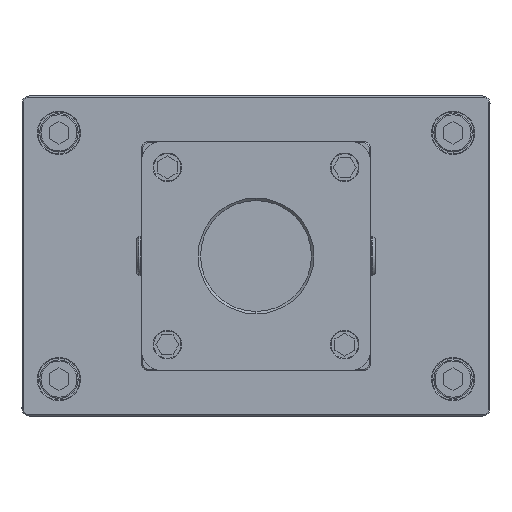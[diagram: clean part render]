
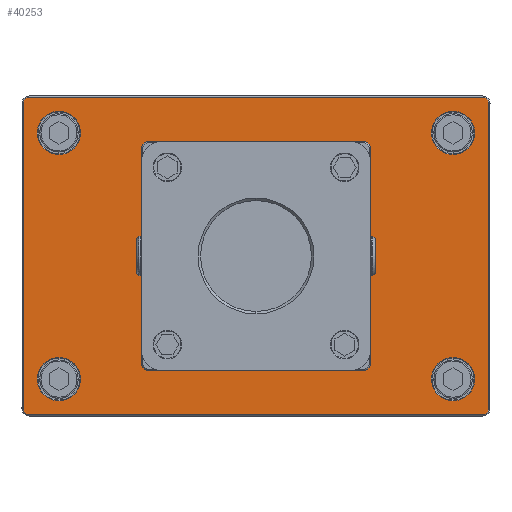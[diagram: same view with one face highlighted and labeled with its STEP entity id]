
A CAD part, front view. The second image highlights one B-rep face of the part: STEP entity #40253.
In plain terms, the highlighted planar face has unit normal (0, -1, 0) as drawn and (0, 1, 0) by its records, which use the part's own axes.
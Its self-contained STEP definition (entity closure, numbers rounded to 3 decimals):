
#38705=CARTESIAN_POINT('',(0.,9.,0.));
#38706=DIRECTION('',(0.,-1.,0.));
#38707=DIRECTION('',(1.,0.,0.));
#38708=AXIS2_PLACEMENT_3D('',#38705,#38706,#38707);
#38710=CARTESIAN_POINT('',(0.,9.,0.));
#38711=DIRECTION('',(0.,-1.,0.));
#38712=DIRECTION('',(-1.,0.,0.));
#38713=AXIS2_PLACEMENT_3D('',#38710,#38711,#38712);
#38715=CARTESIAN_POINT('',(-92.,9.,-62.));
#38716=DIRECTION('',(0.,1.,0.));
#38717=DIRECTION('',(0.,0.,-1.));
#38718=AXIS2_PLACEMENT_3D('',#38715,#38716,#38717);
#38720=DIRECTION('',(-1.,0.,0.));
#38721=VECTOR('',#38720,184.);
#38722=CARTESIAN_POINT('',(92.,9.,
-64.5));
#38723=LINE('',#38722,#38721);
#38724=CARTESIAN_POINT('',(92.,9.,-62.));
#38725=DIRECTION('',(0.,1.,0.));
#38726=DIRECTION('',(1.,0.,0.));
#38727=AXIS2_PLACEMENT_3D('',#38724,#38725,#38726);
#38729=DIRECTION('',(0.,0.,-1.));
#38730=VECTOR('',#38729,124.);
#38731=CARTESIAN_POINT('',(94.5,9.,62.));
#38732=LINE('',#38731,#38730);
#38733=CARTESIAN_POINT('',(92.,9.,62.));
#38734=DIRECTION('',(0.,1.,0.));
#38735=DIRECTION('',(0.,0.,1.));
#38736=AXIS2_PLACEMENT_3D('',#38733,#38734,#38735);
#38738=DIRECTION('',(1.,0.,0.));
#38739=VECTOR('',#38738,184.);
#38740=CARTESIAN_POINT('',(-92.,9.,
64.5));
#38741=LINE('',#38740,#38739);
#38742=CARTESIAN_POINT('',(-92.,9.,62.));
#38743=DIRECTION('',(0.,1.,0.));
#38744=DIRECTION('',(-1.,0.,0.));
#38745=AXIS2_PLACEMENT_3D('',#38742,#38743,#38744);
#38747=DIRECTION('',(0.,0.,1.));
#38748=VECTOR('',#38747,124.);
#38749=CARTESIAN_POINT('',(-94.5,9.,
-62.));
#38750=LINE('',#38749,#38748);
#38751=CARTESIAN_POINT('',(80.,9.,50.));
#38752=DIRECTION('',(0.,-1.,0.));
#38753=DIRECTION('',(1.,0.,0.));
#38754=AXIS2_PLACEMENT_3D('',#38751,#38752,#38753);
#38756=CARTESIAN_POINT('',(80.,9.,50.));
#38757=DIRECTION('',(0.,-1.,0.));
#38758=DIRECTION('',(-1.,0.,0.));
#38759=AXIS2_PLACEMENT_3D('',#38756,#38757,#38758);
#38761=CARTESIAN_POINT('',(-80.,9.,50.));
#38762=DIRECTION('',(0.,-1.,0.));
#38763=DIRECTION('',(1.,0.,0.));
#38764=AXIS2_PLACEMENT_3D('',#38761,#38762,#38763);
#38766=CARTESIAN_POINT('',(-80.,9.,50.));
#38767=DIRECTION('',(0.,-1.,0.));
#38768=DIRECTION('',(-1.,0.,0.));
#38769=AXIS2_PLACEMENT_3D('',#38766,#38767,#38768);
#38771=CARTESIAN_POINT('',(80.,9.,-50.));
#38772=DIRECTION('',(0.,-1.,0.));
#38773=DIRECTION('',(1.,0.,0.));
#38774=AXIS2_PLACEMENT_3D('',#38771,#38772,#38773);
#38776=CARTESIAN_POINT('',(80.,9.,-50.));
#38777=DIRECTION('',(0.,-1.,0.));
#38778=DIRECTION('',(-1.,0.,0.));
#38779=AXIS2_PLACEMENT_3D('',#38776,#38777,#38778);
#38781=CARTESIAN_POINT('',(-80.,9.,-50.));
#38782=DIRECTION('',(0.,-1.,0.));
#38783=DIRECTION('',(1.,0.,0.));
#38784=AXIS2_PLACEMENT_3D('',#38781,#38782,#38783);
#38786=CARTESIAN_POINT('',(-80.,9.,-50.));
#38787=DIRECTION('',(0.,-1.,0.));
#38788=DIRECTION('',(-1.,0.,0.));
#38789=AXIS2_PLACEMENT_3D('',#38786,#38787,#38788);
#38791=CARTESIAN_POINT('',(-36.,9.,-36.));
#38792=DIRECTION('',(0.,1.,0.));
#38793=DIRECTION('',(1.,0.,0.));
#38794=AXIS2_PLACEMENT_3D('',#38791,#38792,#38793);
#38796=CARTESIAN_POINT('',(-36.,9.,-36.));
#38797=DIRECTION('',(0.,1.,0.));
#38798=DIRECTION('',(-1.,0.,0.));
#38799=AXIS2_PLACEMENT_3D('',#38796,#38797,#38798);
#38801=CARTESIAN_POINT('',(-36.,9.,36.));
#38802=DIRECTION('',(0.,1.,0.));
#38803=DIRECTION('',(0.,0.,-1.));
#38804=AXIS2_PLACEMENT_3D('',#38801,#38802,#38803);
#38806=CARTESIAN_POINT('',(-36.,9.,36.));
#38807=DIRECTION('',(0.,1.,0.));
#38808=DIRECTION('',(0.,0.,1.));
#38809=AXIS2_PLACEMENT_3D('',#38806,#38807,#38808);
#38811=CARTESIAN_POINT('',(36.,9.,36.));
#38812=DIRECTION('',(0.,1.,0.));
#38813=DIRECTION('',(-1.,0.,0.));
#38814=AXIS2_PLACEMENT_3D('',#38811,#38812,#38813);
#38816=CARTESIAN_POINT('',(36.,9.,36.));
#38817=DIRECTION('',(0.,1.,0.));
#38818=DIRECTION('',(1.,0.,0.));
#38819=AXIS2_PLACEMENT_3D('',#38816,#38817,#38818);
#38821=CARTESIAN_POINT('',(36.,9.,-36.));
#38822=DIRECTION('',(0.,1.,0.));
#38823=DIRECTION('',(0.,0.,1.));
#38824=AXIS2_PLACEMENT_3D('',#38821,#38822,#38823);
#38826=CARTESIAN_POINT('',(36.,9.,-36.));
#38827=DIRECTION('',(0.,1.,0.));
#38828=DIRECTION('',(0.,0.,-1.));
#38829=AXIS2_PLACEMENT_3D('',#38826,#38827,#38828);
#39737=CARTESIAN_POINT('',(38.,9.,0.));
#39738=CARTESIAN_POINT('',(-38.,9.,0.));
#39739=VERTEX_POINT('',#39737);
#39740=VERTEX_POINT('',#39738);
#39785=CARTESIAN_POINT('',(-92.,9.,-64.5));
#39786=CARTESIAN_POINT('',(-94.5,9.,-62.));
#39787=VERTEX_POINT('',#39785);
#39788=VERTEX_POINT('',#39786);
#39793=CARTESIAN_POINT('',(-94.5,9.,
62.));
#39794=VERTEX_POINT('',#39793);
#39797=CARTESIAN_POINT('',(-92.,9.,64.5));
#39798=VERTEX_POINT('',#39797);
#39801=CARTESIAN_POINT('',(92.,9.,64.5));
#39802=VERTEX_POINT('',#39801);
#39805=CARTESIAN_POINT('',(94.5,9.,62.));
#39806=VERTEX_POINT('',#39805);
#39809=CARTESIAN_POINT('',(94.5,9.,
-62.));
#39810=VERTEX_POINT('',#39809);
#39813=CARTESIAN_POINT('',(92.,9.,-64.5));
#39814=VERTEX_POINT('',#39813);
#39833=CARTESIAN_POINT('',(88.8,9.,50.));
#39834=CARTESIAN_POINT('',(71.2,9.,50.));
#39835=VERTEX_POINT('',#39833);
#39836=VERTEX_POINT('',#39834);
#39857=CARTESIAN_POINT('',(-71.2,9.,50.));
#39858=CARTESIAN_POINT('',(-88.8,9.,50.));
#39859=VERTEX_POINT('',#39857);
#39860=VERTEX_POINT('',#39858);
#39873=CARTESIAN_POINT('',(88.8,9.,-50.));
#39874=CARTESIAN_POINT('',(71.2,9.,-50.));
#39875=VERTEX_POINT('',#39873);
#39876=VERTEX_POINT('',#39874);
#39881=CARTESIAN_POINT('',(-71.2,9.,-50.));
#39882=CARTESIAN_POINT('',(-88.8,9.,-50.));
#39883=VERTEX_POINT('',#39881);
#39884=VERTEX_POINT('',#39882);
#39981=CARTESIAN_POINT('',(-31.,9.,-36.));
#39982=CARTESIAN_POINT('',(-41.,9.,-36.));
#39983=VERTEX_POINT('',#39981);
#39984=VERTEX_POINT('',#39982);
#39989=CARTESIAN_POINT('',(-36.,9.,31.));
#39990=CARTESIAN_POINT('',(-36.,9.,41.));
#39991=VERTEX_POINT('',#39989);
#39992=VERTEX_POINT('',#39990);
#39997=CARTESIAN_POINT('',(31.,9.,36.));
#39998=CARTESIAN_POINT('',(41.,9.,36.));
#39999=VERTEX_POINT('',#39997);
#40000=VERTEX_POINT('',#39998);
#40005=CARTESIAN_POINT('',(36.,9.,-31.));
#40006=CARTESIAN_POINT('',(36.,9.,-41.));
#40007=VERTEX_POINT('',#40005);
#40008=VERTEX_POINT('',#40006);
#40177=CARTESIAN_POINT('',(0.,9.,0.));
#40178=DIRECTION('',(0.,1.,0.));
#40179=DIRECTION('',(1.,0.,0.));
#40180=AXIS2_PLACEMENT_3D('',#40177,#40178,#40179);
#40181=PLANE('',#40180);
#40183=ORIENTED_EDGE('',*,*,#40182,.F.);
#40185=ORIENTED_EDGE('',*,*,#40184,.F.);
#40187=ORIENTED_EDGE('',*,*,#40186,.F.);
#40189=ORIENTED_EDGE('',*,*,#40188,.F.);
#40191=ORIENTED_EDGE('',*,*,#40190,.F.);
#40193=ORIENTED_EDGE('',*,*,#40192,.F.);
#40195=ORIENTED_EDGE('',*,*,#40194,.F.);
#40197=ORIENTED_EDGE('',*,*,#40196,.F.);
#40198=EDGE_LOOP('',(#40183,#40185,#40187,#40189,#40191,#40193,#40195,#40197));
#40199=FACE_OUTER_BOUND('',#40198,.F.);
#40201=ORIENTED_EDGE('',*,*,#40200,.F.);
#40202=ORIENTED_EDGE('',*,*,#40167,.F.);
#40203=EDGE_LOOP('',(#40201,#40202));
#40204=FACE_BOUND('',#40203,.F.);
#40206=ORIENTED_EDGE('',*,*,#40205,.F.);
#40208=ORIENTED_EDGE('',*,*,#40207,.F.);
#40209=EDGE_LOOP('',(#40206,#40208));
#40210=FACE_BOUND('',#40209,.F.);
#40212=ORIENTED_EDGE('',*,*,#40211,.F.);
#40214=ORIENTED_EDGE('',*,*,#40213,.F.);
#40215=EDGE_LOOP('',(#40212,#40214));
#40216=FACE_BOUND('',#40215,.F.);
#40218=ORIENTED_EDGE('',*,*,#40217,.F.);
#40220=ORIENTED_EDGE('',*,*,#40219,.F.);
#40221=EDGE_LOOP('',(#40218,#40220));
#40222=FACE_BOUND('',#40221,.F.);
#40224=ORIENTED_EDGE('',*,*,#40223,.F.);
#40226=ORIENTED_EDGE('',*,*,#40225,.F.);
#40227=EDGE_LOOP('',(#40224,#40226));
#40228=FACE_BOUND('',#40227,.F.);
#40230=ORIENTED_EDGE('',*,*,#40229,.T.);
#40232=ORIENTED_EDGE('',*,*,#40231,.T.);
#40233=EDGE_LOOP('',(#40230,#40232));
#40234=FACE_BOUND('',#40233,.F.);
#40236=ORIENTED_EDGE('',*,*,#40235,.T.);
#40238=ORIENTED_EDGE('',*,*,#40237,.T.);
#40239=EDGE_LOOP('',(#40236,#40238));
#40240=FACE_BOUND('',#40239,.F.);
#40242=ORIENTED_EDGE('',*,*,#40241,.T.);
#40244=ORIENTED_EDGE('',*,*,#40243,.T.);
#40245=EDGE_LOOP('',(#40242,#40244));
#40246=FACE_BOUND('',#40245,.F.);
#40248=ORIENTED_EDGE('',*,*,#40247,.T.);
#40250=ORIENTED_EDGE('',*,*,#40249,.T.);
#40251=EDGE_LOOP('',(#40248,#40250));
#40252=FACE_BOUND('',#40251,.F.);
#40253=ADVANCED_FACE('',(#40199,#40204,#40210,#40216,#40222,#40228,#40234,
#40240,#40246,#40252),#40181,.T.);
#38709=CIRCLE('',#38708,38.);
#38714=CIRCLE('',#38713,38.);
#38719=CIRCLE('',#38718,2.5);
#38728=CIRCLE('',#38727,2.5);
#38737=CIRCLE('',#38736,2.5);
#38746=CIRCLE('',#38745,2.5);
#38755=CIRCLE('',#38754,8.8);
#38760=CIRCLE('',#38759,8.8);
#38765=CIRCLE('',#38764,8.8);
#38770=CIRCLE('',#38769,8.8);
#38775=CIRCLE('',#38774,8.8);
#38780=CIRCLE('',#38779,8.8);
#38785=CIRCLE('',#38784,8.8);
#38790=CIRCLE('',#38789,8.8);
#38795=CIRCLE('',#38794,5.);
#38800=CIRCLE('',#38799,5.);
#38805=CIRCLE('',#38804,5.);
#38810=CIRCLE('',#38809,5.);
#38815=CIRCLE('',#38814,5.);
#38820=CIRCLE('',#38819,5.);
#38825=CIRCLE('',#38824,5.);
#38830=CIRCLE('',#38829,5.);
#40167=EDGE_CURVE('',#39740,#39739,#38714,.T.);
#40182=EDGE_CURVE('',#39787,#39788,#38719,.T.);
#40184=EDGE_CURVE('',#39814,#39787,#38723,.T.);
#40186=EDGE_CURVE('',#39810,#39814,#38728,.T.);
#40188=EDGE_CURVE('',#39806,#39810,#38732,.T.);
#40190=EDGE_CURVE('',#39802,#39806,#38737,.T.);
#40192=EDGE_CURVE('',#39798,#39802,#38741,.T.);
#40194=EDGE_CURVE('',#39794,#39798,#38746,.T.);
#40196=EDGE_CURVE('',#39788,#39794,#38750,.T.);
#40200=EDGE_CURVE('',#39739,#39740,#38709,.T.);
#40205=EDGE_CURVE('',#39835,#39836,#38755,.T.);
#40207=EDGE_CURVE('',#39836,#39835,#38760,.T.);
#40211=EDGE_CURVE('',#39859,#39860,#38765,.T.);
#40213=EDGE_CURVE('',#39860,#39859,#38770,.T.);
#40217=EDGE_CURVE('',#39875,#39876,#38775,.T.);
#40219=EDGE_CURVE('',#39876,#39875,#38780,.T.);
#40223=EDGE_CURVE('',#39883,#39884,#38785,.T.);
#40225=EDGE_CURVE('',#39884,#39883,#38790,.T.);
#40229=EDGE_CURVE('',#39983,#39984,#38795,.T.);
#40231=EDGE_CURVE('',#39984,#39983,#38800,.T.);
#40235=EDGE_CURVE('',#39991,#39992,#38805,.T.);
#40237=EDGE_CURVE('',#39992,#39991,#38810,.T.);
#40241=EDGE_CURVE('',#39999,#40000,#38815,.T.);
#40243=EDGE_CURVE('',#40000,#39999,#38820,.T.);
#40247=EDGE_CURVE('',#40007,#40008,#38825,.T.);
#40249=EDGE_CURVE('',#40008,#40007,#38830,.T.);
